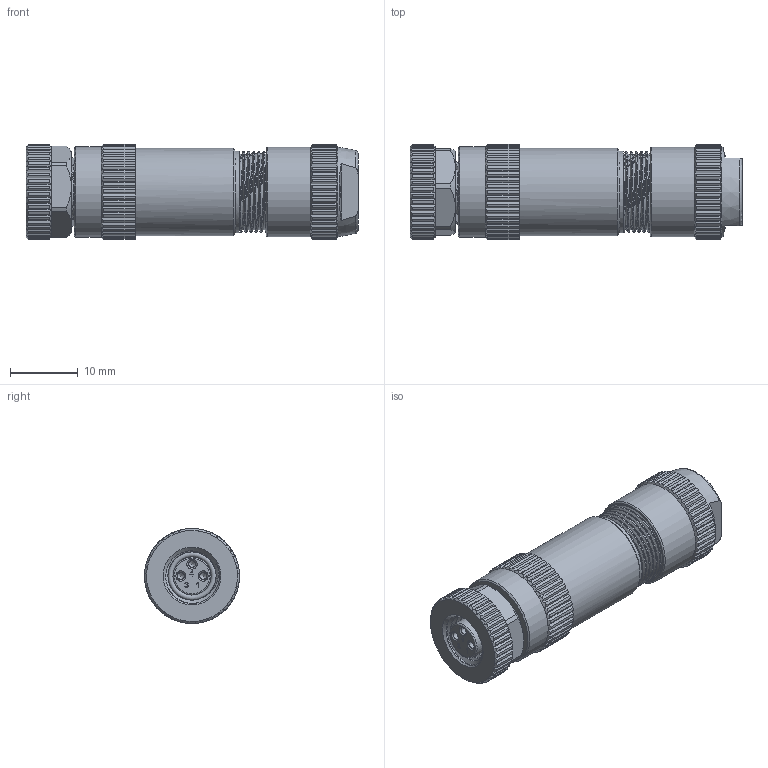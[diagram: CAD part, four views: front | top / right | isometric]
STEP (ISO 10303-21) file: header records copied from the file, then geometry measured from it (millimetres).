
FILE_DESCRIPTION(/* description */ (''),/* implementation_level */ '2;1');
FILE_NAME(/* name */ 'M8-S3A-GLAP7.stp',/* time_stamp */ '2023-12-28T17:33:00+08:00',/* author */ (''),/* organization */ (''),/* preprocessor_version */ 'ST-DEVELOPER v16.7',/* originating_system */ 'SIEMENS PLM Software NX 1847',/* authorisation */ '');
FILE_SCHEMA (('AUTOMOTIVE_DESIGN { 1 0 10303 214 3 1 1 1 }'));
Length unit declared in the file: millimetre
Products named in the file (21): M8 金属组装式主体内衬套; 屏蔽环防水O型圈 ∅9
×∅7×1; M8 金属组装式屏蔽环; M8 金属组装式主体; M12 塑料组装式防水硅胶塞 PG7
规格; M8 金属组装式紧锁螺母; M12 塑料组装式锁线尾爪 PG7规格; 防水密封O型圈 ∅7×
∅5.4×0.8; M8 锁线螺钉_168235ID; T-208 M8 塑料组装式马蹄针母针 
3~5芯_168231ID; M8 金属组装式波形垫片_stp_1682
28ID; M8 金属组装式主体连接螺帽_
168236ID; M8 金属组装式带六角连接螺帽_
168232ID; 防水O型圈∅12×∅9
×1.5_168233ID; M8 锁线螺钉_168230ID; M8 锁线螺钉_168239ID; M8 金属组装式母胶芯 3芯_
168229ID; T-208 M8 塑料组装式马蹄针母针 
3~5芯_168237ID; T-208 M8 塑料组装式马蹄针母针 
3~5芯_168238ID; M8 金属组装式尾部套件半成品; M8-S3A-GLAP7
Assembly tree (20 placements, depth 3):
  M8-S3A-GLAP7
    T-208 M8 塑料组装式马蹄针母针 
3~5芯_168238ID
    T-208 M8 塑料组装式马蹄针母针 
3~5芯_168237ID
    M8 金属组装式母胶芯 3芯_
168229ID
    M8 锁线螺钉_168239ID
    M8 锁线螺钉_168230ID
    M8 金属组装式尾部套件半成品
      M12 塑料组装式锁线尾爪 PG7规格
      M8 金属组装式紧锁螺母
      M12 塑料组装式防水硅胶塞 PG7
规格
      M8 金属组装式主体
      M8 金属组装式屏蔽环
      屏蔽环防水O型圈 ∅9
×∅7×1
      M8 金属组装式主体内衬套
    防水O型圈∅12×∅9
×1.5_168233ID
    M8 金属组装式带六角连接螺帽_
168232ID
    M8 金属组装式主体连接螺帽_
168236ID
    M8 金属组装式波形垫片_stp_1682
28ID
    T-208 M8 塑料组装式马蹄针母针 
3~5芯_168231ID
    M8 锁线螺钉_168235ID
    防水密封O型圈 ∅7×
∅5.4×0.8
Bounding box: 48.9 x 14 x 14 mm (x, y, z)
Volume: 5447.9 mm3; surface area: 5082.4 mm2
Topology: 2 solids, 4 shells, 698 faces, 1964 edges, 1288 vertices
Faces by surface type: plane 370, cylinder 201, cone 83, bspline 27, torus 11, extrusion 6
Full cylindrical faces by diameter (mm): 1.006 x3, 1.1 x3, 1.6 x2, 5.6 x2, 6 x1, 6.9 x1, 7.2 x2, 7.5 x1, 7.8 x1, 8.1 x4, 10.5 x1, 10.9 x2, 11.4 x11, 12 x1, 12.85 x1, 13.05 x5, 13.2 x1, 13.4 x1
Entity records: 35176 total; most frequent: CARTESIAN_POINT 18683, ORIENTED_EDGE 3646, DIRECTION 2956, EDGE_CURVE 1823, VERTEX_POINT 1225, AXIS2_PLACEMENT_3D 1143, EDGE_LOOP 752, B_SPLINE_CURVE_WITH_KNOTS 685
